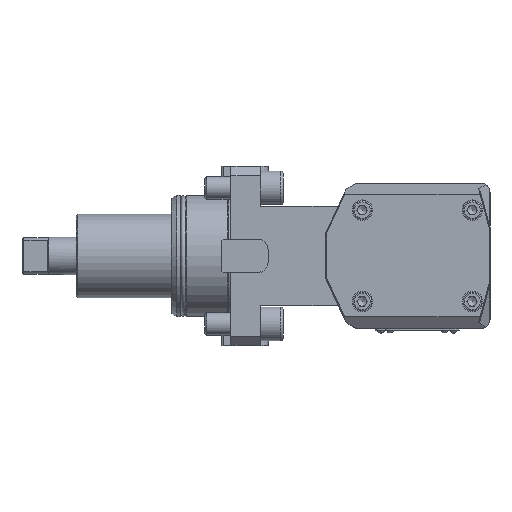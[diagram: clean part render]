
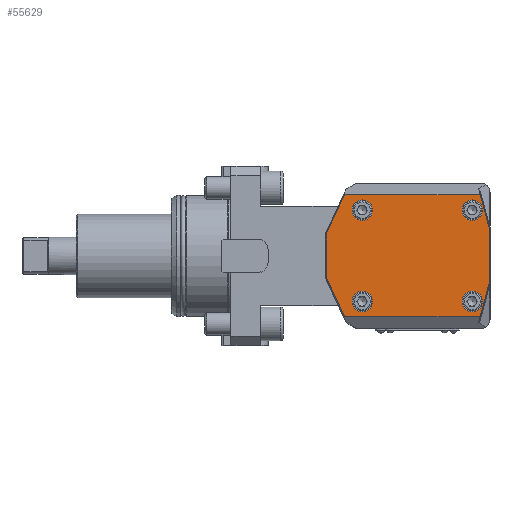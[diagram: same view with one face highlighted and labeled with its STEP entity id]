
A CAD part, top view. The second image highlights one B-rep face of the part: STEP entity #55629.
In plain terms, the highlighted planar face has unit normal (0, 0, 1).
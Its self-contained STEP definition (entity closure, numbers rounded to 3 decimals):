
#24463=VECTOR('',#37801,1.);
#24464=VECTOR('',#37802,1.);
#24465=VECTOR('',#37803,1.);
#24466=VECTOR('',#37804,1.);
#24467=VECTOR('',#37805,1.);
#24468=VECTOR('',#37806,1.);
#24469=VECTOR('',#37807,1.);
#24470=VECTOR('',#37808,1.);
#25673=LINE('',#41875,#24463);
#25674=LINE('',#41877,#24464);
#25675=LINE('',#41879,#24465);
#25676=LINE('',#41881,#24466);
#25677=LINE('',#41883,#24467);
#25678=LINE('',#41885,#24468);
#25679=LINE('',#41887,#24469);
#25680=LINE('',#41888,#24470);
#26883=PLANE('',#53981);
#27443=ORIENTED_EDGE('',*,*,#33453,.F.);
#27444=ORIENTED_EDGE('',*,*,#33454,.F.);
#27445=ORIENTED_EDGE('',*,*,#33455,.F.);
#27446=ORIENTED_EDGE('',*,*,#33456,.F.);
#27447=ORIENTED_EDGE('',*,*,#33457,.F.);
#27448=ORIENTED_EDGE('',*,*,#33458,.F.);
#27449=ORIENTED_EDGE('',*,*,#33459,.F.);
#27450=ORIENTED_EDGE('',*,*,#33460,.F.);
#27451=ORIENTED_EDGE('',*,*,#33451,.F.);
#27452=ORIENTED_EDGE('',*,*,#33461,.F.);
#27453=ORIENTED_EDGE('',*,*,#33462,.F.);
#27454=ORIENTED_EDGE('',*,*,#33463,.F.);
#31493=CIRCLE('',#53979,5.5);
#31495=CIRCLE('',#53982,5.5);
#31496=CIRCLE('',#53983,5.5);
#31497=CIRCLE('',#53984,5.5);
#32044=VERTEX_POINT('',#41868);
#32046=VERTEX_POINT('',#41873);
#32047=VERTEX_POINT('',#41874);
#32048=VERTEX_POINT('',#41876);
#32049=VERTEX_POINT('',#41878);
#32050=VERTEX_POINT('',#41880);
#32051=VERTEX_POINT('',#41882);
#32052=VERTEX_POINT('',#41884);
#32053=VERTEX_POINT('',#41886);
#32054=VERTEX_POINT('',#41889);
#32055=VERTEX_POINT('',#41891);
#32056=VERTEX_POINT('',#41893);
#33451=EDGE_CURVE('',#32044,#32044,#31493,.T.);
#33453=EDGE_CURVE('',#32046,#32047,#25673,.T.);
#33454=EDGE_CURVE('',#32048,#32046,#25674,.T.);
#33455=EDGE_CURVE('',#32049,#32048,#25675,.T.);
#33456=EDGE_CURVE('',#32050,#32049,#25676,.T.);
#33457=EDGE_CURVE('',#32051,#32050,#25677,.T.);
#33458=EDGE_CURVE('',#32052,#32051,#25678,.T.);
#33459=EDGE_CURVE('',#32053,#32052,#25679,.T.);
#33460=EDGE_CURVE('',#32047,#32053,#25680,.T.);
#33461=EDGE_CURVE('',#32054,#32054,#31495,.T.);
#33462=EDGE_CURVE('',#32055,#32055,#31496,.T.);
#33463=EDGE_CURVE('',#32056,#32056,#31497,.T.);
#35479=EDGE_LOOP('',(#27443,#27444,#27445,#27446,#27447,#27448,#27449,#27450));
#35480=EDGE_LOOP('',(#27451));
#35481=EDGE_LOOP('',(#27452));
#35482=EDGE_LOOP('',(#27453));
#35483=EDGE_LOOP('',(#27454));
#36630=FACE_BOUND('',#35479,.T.);
#36631=FACE_BOUND('',#35480,.T.);
#36632=FACE_BOUND('',#35481,.T.);
#36633=FACE_BOUND('',#35482,.T.);
#36634=FACE_BOUND('',#35483,.T.);
#37795=DIRECTION('',(0.,0.,1.));
#37796=DIRECTION('',(5.5,0.,0.));
#37799=DIRECTION('',(0.,0.,1.));
#37800=DIRECTION('',(0.,-1.,0.));
#37801=DIRECTION('',(72.709,0.,0.));
#37802=DIRECTION('',(9.524,20.425,0.));
#37803=DIRECTION('',(0.,24.599,0.));
#37804=DIRECTION('',(-9.524,20.425,0.));
#37805=DIRECTION('',(-72.709,0.,0.));
#37806=DIRECTION('',(-4.767,-17.79,0.));
#37807=DIRECTION('',(0.,-29.868,0.));
#37808=DIRECTION('',(4.767,-17.79,0.));
#37809=DIRECTION('',(0.,0.,1.));
#37810=DIRECTION('',(5.5,0.,0.));
#37811=DIRECTION('',(0.,0.,1.));
#37812=DIRECTION('',(5.5,0.,0.));
#37813=DIRECTION('',(0.,0.,1.));
#37814=DIRECTION('',(5.5,0.,0.));
#41868=CARTESIAN_POINT('',(385.,-24.5,61.));
#41869=CARTESIAN_POINT('',(379.5,-24.5,61.));
#41872=CARTESIAN_POINT('',(389.,-15.,61.));
#41873=CARTESIAN_POINT('',(311.024,32.724,61.));
#41874=CARTESIAN_POINT('',(383.733,32.724,61.));
#41875=CARTESIAN_POINT('',(311.024,32.724,61.));
#41876=CARTESIAN_POINT('',(301.5,12.3,61.));
#41877=CARTESIAN_POINT('',(301.5,12.3,61.));
#41878=CARTESIAN_POINT('',(301.5,-12.3,61.));
#41879=CARTESIAN_POINT('',(301.5,-12.3,61.));
#41880=CARTESIAN_POINT('',(311.024,-32.724,61.));
#41881=CARTESIAN_POINT('',(311.024,-32.724,61.));
#41882=CARTESIAN_POINT('',(383.733,-32.724,61.));
#41883=CARTESIAN_POINT('',(383.733,-32.724,61.));
#41884=CARTESIAN_POINT('',(388.5,-14.934,61.));
#41885=CARTESIAN_POINT('',(388.5,-14.934,61.));
#41886=CARTESIAN_POINT('',(388.5,14.934,61.));
#41887=CARTESIAN_POINT('',(388.5,14.934,61.));
#41888=CARTESIAN_POINT('',(383.733,32.724,61.));
#41889=CARTESIAN_POINT('',(385.,24.5,61.));
#41890=CARTESIAN_POINT('',(379.5,24.5,61.));
#41891=CARTESIAN_POINT('',(326.,-24.5,61.));
#41892=CARTESIAN_POINT('',(320.5,-24.5,61.));
#41893=CARTESIAN_POINT('',(326.,24.5,61.));
#41894=CARTESIAN_POINT('',(320.5,24.5,61.));
#53979=AXIS2_PLACEMENT_3D('',#41869,#37795,#37796);
#53981=AXIS2_PLACEMENT_3D('',#41872,#37799,#37800);
#53982=AXIS2_PLACEMENT_3D('',#41890,#37809,#37810);
#53983=AXIS2_PLACEMENT_3D('',#41892,#37811,#37812);
#53984=AXIS2_PLACEMENT_3D('',#41894,#37813,#37814);
#55629=ADVANCED_FACE('',(#36630,#36631,#36632,#36633,#36634),#26883,.T.);
